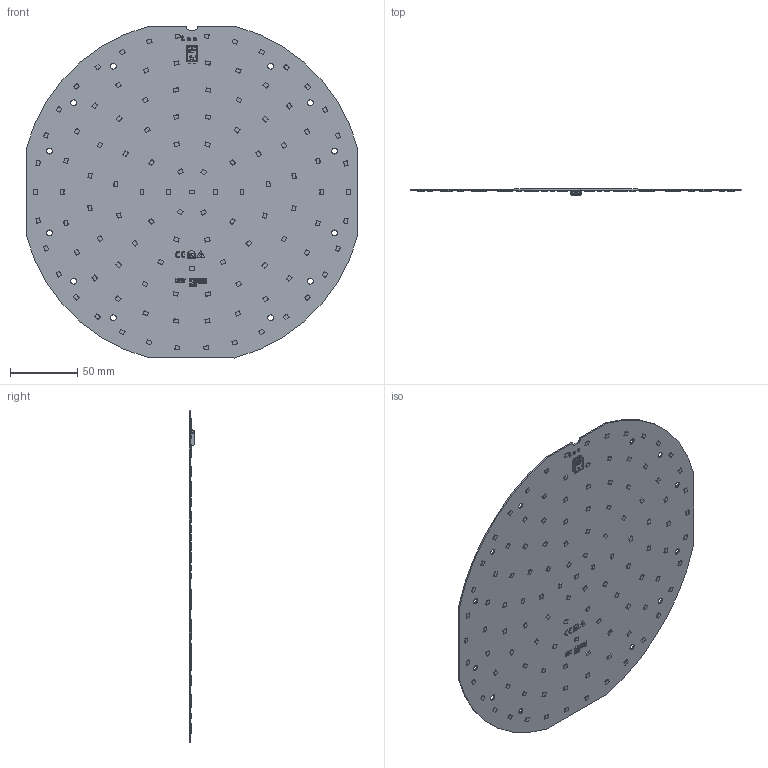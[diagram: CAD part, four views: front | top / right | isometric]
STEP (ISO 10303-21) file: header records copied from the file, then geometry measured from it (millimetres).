
FILE_DESCRIPTION(/* description */ ('Unknown'),/* implementation_level */ '2;1');
FILE_NAME(/* name */ 'RdLED 255mm 2500lm 42V FLAT G1 sh-000 2021-04-13',/* time_stamp */ '2021-12-17T10:54:21+01:00',/* author */ ('Unknown'),/* organization */ ('Unknown'),/* preprocessor_version */ 'ST-DEVELOPER v16.7',/* originating_system */ 'Solid Edge',/* authorisation */ 'Unknown');
FILE_SCHEMA (('AUTOMOTIVE_DESIGN {1 0 10303 214 3 1 1}'));
Products named in the file (1): RdLED 255mm 2500lm 42V FLAT G1 sh-000 2021-04-13
Bounding box: 247 x 4.45 x 247 mm (x, y, z)
Volume: 51102 mm3; surface area: 102725 mm2
Topology: 1 solids, 1 shells, 2676 faces, 6965 edges, 4585 vertices
Faces by surface type: plane 2330, bspline 163, cylinder 136, cone 26, torus 11, sphere 10
Full cylindrical faces by diameter (mm): 1.5 x1, 2.3 x2, 2.5 x2, 4.3 x12
Entity records: 103802 total; most frequent: CARTESIAN_POINT 20757, ORIENTED_EDGE 13834, DIRECTION 11715, EDGE_CURVE 6917, LINE 6173, VECTOR 6173, VERTEX_POINT 4578, EDGE_LOOP 3041
